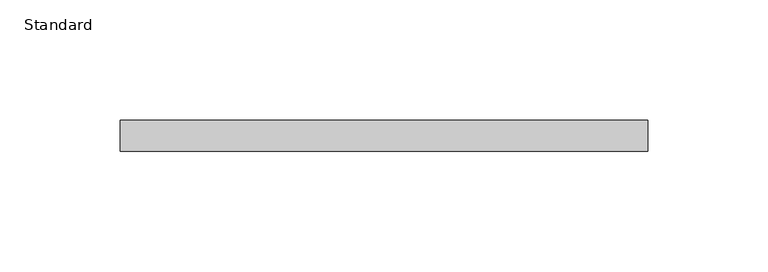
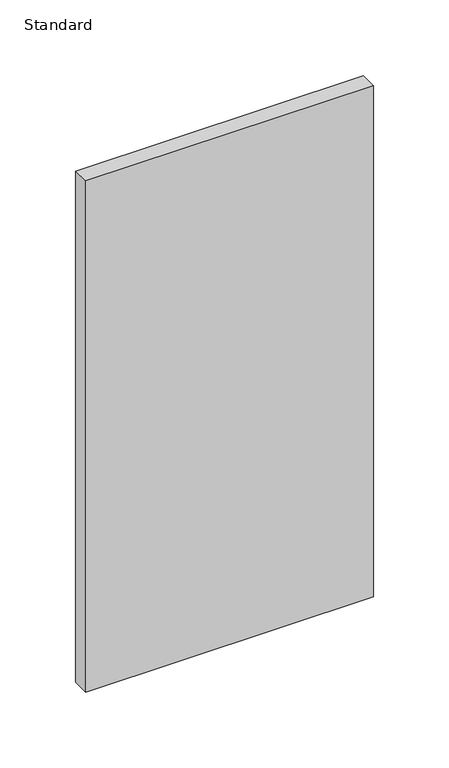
"""IFC4 building model written with IfcOpenShell, lengths in millimetres: furniture geometry, X_Locker-Duracube-Panel : Standard."""

from ifc_helpers import new_model, si_unit, origin, origin_with_axes, place, context, project, spatial, polyline, outline, extrude, source, transform, mapped, element, save


def standard_b2058483(model_context):
    return source(origin(), model_context, "Body", "SweptSolid", [
        extrude(outline(polyline([(154.4503264, -13.0), (-65.0496736, -13.0), (-65.0496736, 0.0), (154.4503264, 0.0), (154.4503264, -13.0)])), origin_with_axes(), (0.0, 0.0, 1.0), 412.0),
    ])


if __name__ == "__main__":
    model = new_model("IFC4")
    model_context = context("Model", 3, world=origin())
    ifc_project = project(units=[si_unit("LENGTHUNIT", "METRE", prefix="MILLI")], contexts=[model_context])
    site = spatial("IfcSite", under=ifc_project)
    building = spatial("IfcBuilding", under=site)
    placement = place(None, origin())
    standard_shape = standard_b2058483(model_context)
    element("IfcFurniture", 1, ObjectType="X_Locker-Duracube-Panel : Standard", at=placement, inside=building, context=model_context, shape_type="MappedRepresentation", body=[
        mapped(standard_shape, transform((0.0, 0.0, 0.0), x_axis=(1.0, 0.0, 0.0), y_axis=(0.0, 1.0, 0.0), z_axis=(0.0, 0.0, 1.0))),
    ])
    save(model, "model.ifc")
